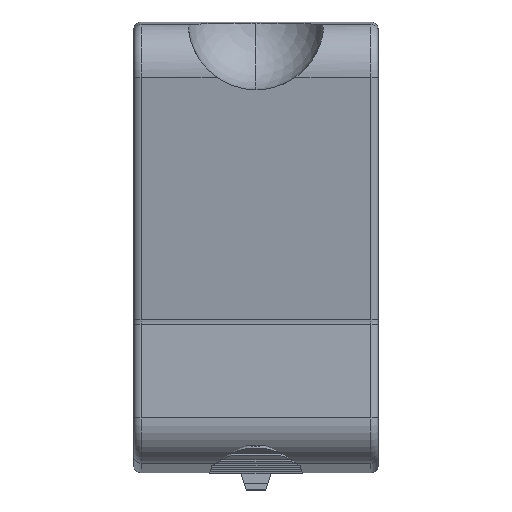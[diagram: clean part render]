
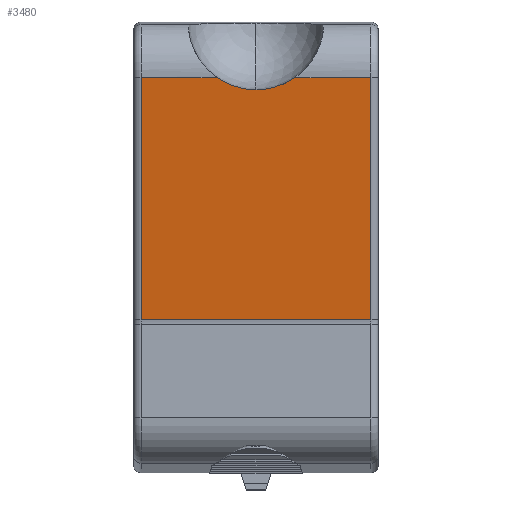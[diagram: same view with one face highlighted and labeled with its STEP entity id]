
A CAD part, top view. The second image highlights one B-rep face of the part: STEP entity #3480.
In plain terms, the highlighted planar face has unit normal (0, -0.139, 0.99).
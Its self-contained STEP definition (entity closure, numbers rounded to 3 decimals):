
#1768 = CYLINDRICAL_SURFACE('',#1769,4.);
#1769 = AXIS2_PLACEMENT_3D('',#1770,#1771,#1772);
#1770 = CARTESIAN_POINT('',(0.,18.944,15.499));
#1771 = DIRECTION('',(1.,0.,0.));
#1772 = DIRECTION('',(0.,1.,0.));
#2268 = VERTEX_POINT('',#2269);
#2269 = CARTESIAN_POINT('',(-30.5,19.649,11.561));
#2291 = EDGE_CURVE('',#2292,#2268,#2294,.T.);
#2292 = VERTEX_POINT('',#2293);
#2293 = CARTESIAN_POINT('',(-1.,19.649,11.561));
#2294 = SURFACE_CURVE('',#2295,(#2299,#2306),.PCURVE_S1.);
#2295 = LINE('',#2296,#2297);
#2296 = CARTESIAN_POINT('',(0.,19.649,11.561));
#2297 = VECTOR('',#2298,1.);
#2298 = DIRECTION('',(-1.,0.,0.));
#2299 = PCURVE('',#1768,#2300);
#2300 = DEFINITIONAL_REPRESENTATION('',(#2301),#2305);
#2301 = LINE('',#2302,#2303);
#2302 = CARTESIAN_POINT('',(4.89,0.));
#2303 = VECTOR('',#2304,1.);
#2304 = DIRECTION('',(0.,-1.));
#2305 = ( GEOMETRIC_REPRESENTATION_CONTEXT(2) 
PARAMETRIC_REPRESENTATION_CONTEXT() REPRESENTATION_CONTEXT('2D SPACE',''
  ) );
#2306 = PCURVE('',#2307,#2312);
#2307 = PLANE('',#2308);
#2308 = AXIS2_PLACEMENT_3D('',#2309,#2310,#2311);
#2309 = CARTESIAN_POINT('',(0.,19.649,11.561));
#2310 = DIRECTION('',(0.,0.139,-0.99));
#2311 = DIRECTION('',(0.,0.99,0.139));
#2312 = DEFINITIONAL_REPRESENTATION('',(#2313),#2317);
#2313 = LINE('',#2314,#2315);
#2314 = CARTESIAN_POINT('',(0.,0.));
#2315 = VECTOR('',#2316,1.);
#2316 = DIRECTION('',(0.,-1.));
#2317 = ( GEOMETRIC_REPRESENTATION_CONTEXT(2) 
PARAMETRIC_REPRESENTATION_CONTEXT() REPRESENTATION_CONTEXT('2D SPACE',''
  ) );
#2643 = CYLINDRICAL_SURFACE('',#2644,1.);
#2644 = AXIS2_PLACEMENT_3D('',#2645,#2646,#2647);
#2645 = CARTESIAN_POINT('',(-1.,50.955,14.951));
#2646 = DIRECTION('',(-0.,-0.99,-0.139));
#2647 = DIRECTION('',(1.,0.,0.));
#3035 = CYLINDRICAL_SURFACE('',#3036,1.);
#3036 = AXIS2_PLACEMENT_3D('',#3037,#3038,#3039);
#3037 = CARTESIAN_POINT('',(-30.5,50.955,14.951));
#3038 = DIRECTION('',(-0.,-0.99,-0.139));
#3039 = DIRECTION('',(-1.,0.,0.));
#3480 = ADVANCED_FACE('',(#3481),#2307,.F.);
#3481 = FACE_BOUND('',#3482,.F.);
#3482 = EDGE_LOOP('',(#3483,#3506,#3507,#3530,#3558,#3593,#3628));
#3483 = ORIENTED_EDGE('',*,*,#3484,.T.);
#3484 = EDGE_CURVE('',#3485,#2292,#3487,.T.);
#3485 = VERTEX_POINT('',#3486);
#3486 = CARTESIAN_POINT('',(-1.,50.816,15.942));
#3487 = SURFACE_CURVE('',#3488,(#3492,#3499),.PCURVE_S1.);
#3488 = LINE('',#3489,#3490);
#3489 = CARTESIAN_POINT('',(-1.,50.816,15.942));
#3490 = VECTOR('',#3491,1.);
#3491 = DIRECTION('',(-0.,-0.99,-0.139));
#3492 = PCURVE('',#2307,#3493);
#3493 = DEFINITIONAL_REPRESENTATION('',(#3494),#3498);
#3494 = LINE('',#3495,#3496);
#3495 = CARTESIAN_POINT('',(31.473,-1.));
#3496 = VECTOR('',#3497,1.);
#3497 = DIRECTION('',(-1.,0.));
#3498 = ( GEOMETRIC_REPRESENTATION_CONTEXT(2) 
PARAMETRIC_REPRESENTATION_CONTEXT() REPRESENTATION_CONTEXT('2D SPACE',''
  ) );
#3499 = PCURVE('',#2643,#3500);
#3500 = DEFINITIONAL_REPRESENTATION('',(#3501),#3505);
#3501 = LINE('',#3502,#3503);
#3502 = CARTESIAN_POINT('',(1.571,0.));
#3503 = VECTOR('',#3504,1.);
#3504 = DIRECTION('',(0.,1.));
#3505 = ( GEOMETRIC_REPRESENTATION_CONTEXT(2) 
PARAMETRIC_REPRESENTATION_CONTEXT() REPRESENTATION_CONTEXT('2D SPACE',''
  ) );
#3506 = ORIENTED_EDGE('',*,*,#2291,.T.);
#3507 = ORIENTED_EDGE('',*,*,#3508,.F.);
#3508 = EDGE_CURVE('',#3509,#2268,#3511,.T.);
#3509 = VERTEX_POINT('',#3510);
#3510 = CARTESIAN_POINT('',(-30.5,50.816,15.942));
#3511 = SURFACE_CURVE('',#3512,(#3516,#3523),.PCURVE_S1.);
#3512 = LINE('',#3513,#3514);
#3513 = CARTESIAN_POINT('',(-30.5,50.816,15.942));
#3514 = VECTOR('',#3515,1.);
#3515 = DIRECTION('',(-0.,-0.99,-0.139));
#3516 = PCURVE('',#2307,#3517);
#3517 = DEFINITIONAL_REPRESENTATION('',(#3518),#3522);
#3518 = LINE('',#3519,#3520);
#3519 = CARTESIAN_POINT('',(31.473,-30.5));
#3520 = VECTOR('',#3521,1.);
#3521 = DIRECTION('',(-1.,0.));
#3522 = ( GEOMETRIC_REPRESENTATION_CONTEXT(2) 
PARAMETRIC_REPRESENTATION_CONTEXT() REPRESENTATION_CONTEXT('2D SPACE',''
  ) );
#3523 = PCURVE('',#3035,#3524);
#3524 = DEFINITIONAL_REPRESENTATION('',(#3525),#3529);
#3525 = LINE('',#3526,#3527);
#3526 = CARTESIAN_POINT('',(-1.571,0.));
#3527 = VECTOR('',#3528,1.);
#3528 = DIRECTION('',(-0.,1.));
#3529 = ( GEOMETRIC_REPRESENTATION_CONTEXT(2) 
PARAMETRIC_REPRESENTATION_CONTEXT() REPRESENTATION_CONTEXT('2D SPACE',''
  ) );
#3530 = ORIENTED_EDGE('',*,*,#3531,.F.);
#3531 = EDGE_CURVE('',#3532,#3509,#3534,.T.);
#3532 = VERTEX_POINT('',#3533);
#3533 = CARTESIAN_POINT('',(-20.745,50.816,
    15.942));
#3534 = SURFACE_CURVE('',#3535,(#3539,#3546),.PCURVE_S1.);
#3535 = LINE('',#3536,#3537);
#3536 = CARTESIAN_POINT('',(0.,50.816,15.942));
#3537 = VECTOR('',#3538,1.);
#3538 = DIRECTION('',(-1.,0.,0.));
#3539 = PCURVE('',#2307,#3540);
#3540 = DEFINITIONAL_REPRESENTATION('',(#3541),#3545);
#3541 = LINE('',#3542,#3543);
#3542 = CARTESIAN_POINT('',(31.473,0.));
#3543 = VECTOR('',#3544,1.);
#3544 = DIRECTION('',(0.,-1.));
#3545 = ( GEOMETRIC_REPRESENTATION_CONTEXT(2) 
PARAMETRIC_REPRESENTATION_CONTEXT() REPRESENTATION_CONTEXT('2D SPACE',''
  ) );
#3546 = PCURVE('',#3547,#3552);
#3547 = CYLINDRICAL_SURFACE('',#3548,6.);
#3548 = AXIS2_PLACEMENT_3D('',#3549,#3550,#3551);
#3549 = CARTESIAN_POINT('',(0.,51.651,10.));
#3550 = DIRECTION('',(1.,0.,0.));
#3551 = DIRECTION('',(0.,1.,0.));
#3552 = DEFINITIONAL_REPRESENTATION('',(#3553),#3557);
#3553 = LINE('',#3554,#3555);
#3554 = CARTESIAN_POINT('',(1.71,0.));
#3555 = VECTOR('',#3556,1.);
#3556 = DIRECTION('',(0.,-1.));
#3557 = ( GEOMETRIC_REPRESENTATION_CONTEXT(2) 
PARAMETRIC_REPRESENTATION_CONTEXT() REPRESENTATION_CONTEXT('2D SPACE',''
  ) );
#3558 = ORIENTED_EDGE('',*,*,#3559,.F.);
#3559 = EDGE_CURVE('',#3560,#3532,#3562,.T.);
#3560 = VERTEX_POINT('',#3561);
#3561 = CARTESIAN_POINT('',(-15.75,49.25,15.722));
#3562 = SURFACE_CURVE('',#3563,(#3568,#3575),.PCURVE_S1.);
#3563 = ELLIPSE('',#3564,8.836,8.75);
#3564 = AXIS2_PLACEMENT_3D('',#3565,#3566,#3567);
#3565 = CARTESIAN_POINT('',(-15.75,58.,16.951));
#3566 = DIRECTION('',(0.,0.139,-0.99));
#3567 = DIRECTION('',(0.,-0.99,-0.139));
#3568 = PCURVE('',#2307,#3569);
#3569 = DEFINITIONAL_REPRESENTATION('',(#3570),#3574);
#3570 = ELLIPSE('',#3571,8.836,8.75);
#3571 = AXIS2_PLACEMENT_2D('',#3572,#3573);
#3572 = CARTESIAN_POINT('',(38.728,-15.75));
#3573 = DIRECTION('',(-1.,0.));
#3574 = ( GEOMETRIC_REPRESENTATION_CONTEXT(2) 
PARAMETRIC_REPRESENTATION_CONTEXT() REPRESENTATION_CONTEXT('2D SPACE',''
  ) );
#3575 = PCURVE('',#3576,#3581);
#3576 = CYLINDRICAL_SURFACE('',#3577,8.75);
#3577 = AXIS2_PLACEMENT_3D('',#3578,#3579,#3580);
#3578 = CARTESIAN_POINT('',(-15.75,58.,22.75));
#3579 = DIRECTION('',(0.,0.,-1.));
#3580 = DIRECTION('',(0.,-1.,0.));
#3581 = DEFINITIONAL_REPRESENTATION('',(#3582),#3592);
#3582 = B_SPLINE_CURVE_WITH_KNOTS('',8,(#3583,#3584,#3585,#3586,#3587,
    #3588,#3589,#3590,#3591),.UNSPECIFIED.,.F.,.F.,(9,9),(0.,
    1.087),.PIECEWISE_BEZIER_KNOTS.);
#3583 = CARTESIAN_POINT('',(-6.283,7.028));
#3584 = CARTESIAN_POINT('',(-6.147,7.028));
#3585 = CARTESIAN_POINT('',(-6.011,7.002));
#3586 = CARTESIAN_POINT('',(-5.875,6.951));
#3587 = CARTESIAN_POINT('',(-5.74,6.874));
#3588 = CARTESIAN_POINT('',(-5.604,6.774));
#3589 = CARTESIAN_POINT('',(-5.468,6.654));
#3590 = CARTESIAN_POINT('',(-5.332,6.518));
#3591 = CARTESIAN_POINT('',(-5.196,6.37));
#3592 = ( GEOMETRIC_REPRESENTATION_CONTEXT(2) 
PARAMETRIC_REPRESENTATION_CONTEXT() REPRESENTATION_CONTEXT('2D SPACE',''
  ) );
#3593 = ORIENTED_EDGE('',*,*,#3594,.F.);
#3594 = EDGE_CURVE('',#3595,#3560,#3597,.T.);
#3595 = VERTEX_POINT('',#3596);
#3596 = CARTESIAN_POINT('',(-10.755,50.816,
    15.942));
#3597 = SURFACE_CURVE('',#3598,(#3603,#3610),.PCURVE_S1.);
#3598 = ELLIPSE('',#3599,8.836,8.75);
#3599 = AXIS2_PLACEMENT_3D('',#3600,#3601,#3602);
#3600 = CARTESIAN_POINT('',(-15.75,58.,16.951));
#3601 = DIRECTION('',(0.,0.139,-0.99));
#3602 = DIRECTION('',(0.,-0.99,-0.139));
#3603 = PCURVE('',#2307,#3604);
#3604 = DEFINITIONAL_REPRESENTATION('',(#3605),#3609);
#3605 = ELLIPSE('',#3606,8.836,8.75);
#3606 = AXIS2_PLACEMENT_2D('',#3607,#3608);
#3607 = CARTESIAN_POINT('',(38.728,-15.75));
#3608 = DIRECTION('',(-1.,0.));
#3609 = ( GEOMETRIC_REPRESENTATION_CONTEXT(2) 
PARAMETRIC_REPRESENTATION_CONTEXT() REPRESENTATION_CONTEXT('2D SPACE',''
  ) );
#3610 = PCURVE('',#3611,#3616);
#3611 = CYLINDRICAL_SURFACE('',#3612,8.75);
#3612 = AXIS2_PLACEMENT_3D('',#3613,#3614,#3615);
#3613 = CARTESIAN_POINT('',(-15.75,58.,22.75));
#3614 = DIRECTION('',(0.,0.,-1.));
#3615 = DIRECTION('',(0.,-1.,0.));
#3616 = DEFINITIONAL_REPRESENTATION('',(#3617),#3627);
#3617 = B_SPLINE_CURVE_WITH_KNOTS('',8,(#3618,#3619,#3620,#3621,#3622,
    #3623,#3624,#3625,#3626),.UNSPECIFIED.,.F.,.F.,(9,9),(5.196
    ,6.283),.PIECEWISE_BEZIER_KNOTS.);
#3618 = CARTESIAN_POINT('',(-1.087,6.37));
#3619 = CARTESIAN_POINT('',(-0.951,6.518));
#3620 = CARTESIAN_POINT('',(-0.815,6.654));
#3621 = CARTESIAN_POINT('',(-0.68,6.774));
#3622 = CARTESIAN_POINT('',(-0.544,6.874));
#3623 = CARTESIAN_POINT('',(-0.408,6.951));
#3624 = CARTESIAN_POINT('',(-0.272,7.002));
#3625 = CARTESIAN_POINT('',(-0.136,7.028));
#3626 = CARTESIAN_POINT('',(0.,7.028));
#3627 = ( GEOMETRIC_REPRESENTATION_CONTEXT(2) 
PARAMETRIC_REPRESENTATION_CONTEXT() REPRESENTATION_CONTEXT('2D SPACE',''
  ) );
#3628 = ORIENTED_EDGE('',*,*,#3629,.F.);
#3629 = EDGE_CURVE('',#3485,#3595,#3630,.T.);
#3630 = SURFACE_CURVE('',#3631,(#3635,#3642),.PCURVE_S1.);
#3631 = LINE('',#3632,#3633);
#3632 = CARTESIAN_POINT('',(0.,50.816,15.942));
#3633 = VECTOR('',#3634,1.);
#3634 = DIRECTION('',(-1.,0.,0.));
#3635 = PCURVE('',#2307,#3636);
#3636 = DEFINITIONAL_REPRESENTATION('',(#3637),#3641);
#3637 = LINE('',#3638,#3639);
#3638 = CARTESIAN_POINT('',(31.473,0.));
#3639 = VECTOR('',#3640,1.);
#3640 = DIRECTION('',(0.,-1.));
#3641 = ( GEOMETRIC_REPRESENTATION_CONTEXT(2) 
PARAMETRIC_REPRESENTATION_CONTEXT() REPRESENTATION_CONTEXT('2D SPACE',''
  ) );
#3642 = PCURVE('',#3643,#3648);
#3643 = CYLINDRICAL_SURFACE('',#3644,6.);
#3644 = AXIS2_PLACEMENT_3D('',#3645,#3646,#3647);
#3645 = CARTESIAN_POINT('',(0.,51.651,10.));
#3646 = DIRECTION('',(1.,0.,0.));
#3647 = DIRECTION('',(0.,1.,0.));
#3648 = DEFINITIONAL_REPRESENTATION('',(#3649),#3653);
#3649 = LINE('',#3650,#3651);
#3650 = CARTESIAN_POINT('',(1.71,0.));
#3651 = VECTOR('',#3652,1.);
#3652 = DIRECTION('',(0.,-1.));
#3653 = ( GEOMETRIC_REPRESENTATION_CONTEXT(2) 
PARAMETRIC_REPRESENTATION_CONTEXT() REPRESENTATION_CONTEXT('2D SPACE',''
  ) );
